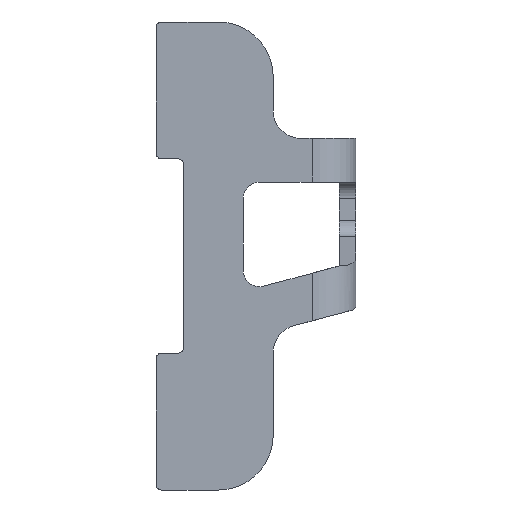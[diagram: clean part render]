
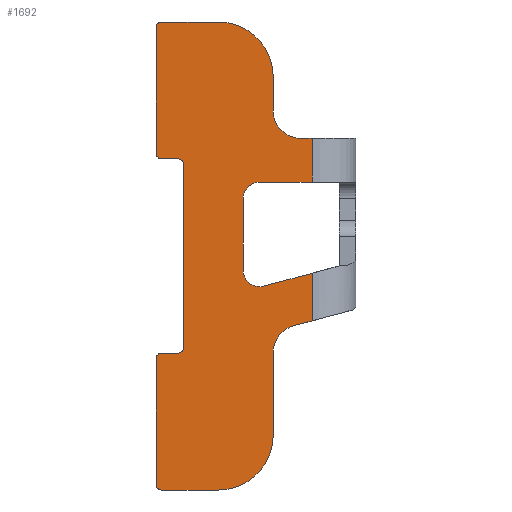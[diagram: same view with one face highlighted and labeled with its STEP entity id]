
A CAD part, left-side view. The second image highlights one B-rep face of the part: STEP entity #1692.
In plain terms, the highlighted planar face has unit normal (-1, 0, 0).
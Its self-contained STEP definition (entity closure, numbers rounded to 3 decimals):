
#114=CIRCLE('',#1829,1.);
#115=CIRCLE('',#1832,1.);
#116=CIRCLE('',#1835,1.);
#117=CIRCLE('',#1838,1.);
#118=CIRCLE('',#1841,1.);
#119=CIRCLE('',#1844,1.);
#120=CIRCLE('',#1847,10.);
#121=CIRCLE('',#1850,5.);
#125=CIRCLE('',#1857,5.);
#127=CIRCLE('',#1863,10.);
#132=CIRCLE('',#1874,3.);
#133=CIRCLE('',#1875,3.);
#498=ORIENTED_EDGE('',*,*,#879,.T.);
#499=ORIENTED_EDGE('',*,*,#880,.T.);
#500=ORIENTED_EDGE('',*,*,#881,.T.);
#501=ORIENTED_EDGE('',*,*,#882,.T.);
#502=ORIENTED_EDGE('',*,*,#883,.T.);
#503=ORIENTED_EDGE('',*,*,#788,.F.);
#504=ORIENTED_EDGE('',*,*,#854,.F.);
#505=ORIENTED_EDGE('',*,*,#860,.T.);
#506=ORIENTED_EDGE('',*,*,#865,.F.);
#507=ORIENTED_EDGE('',*,*,#869,.F.);
#508=ORIENTED_EDGE('',*,*,#871,.F.);
#509=ORIENTED_EDGE('',*,*,#823,.F.);
#510=ORIENTED_EDGE('',*,*,#826,.F.);
#511=ORIENTED_EDGE('',*,*,#828,.F.);
#512=ORIENTED_EDGE('',*,*,#830,.F.);
#513=ORIENTED_EDGE('',*,*,#831,.T.);
#514=ORIENTED_EDGE('',*,*,#834,.F.);
#515=ORIENTED_EDGE('',*,*,#835,.T.);
#516=ORIENTED_EDGE('',*,*,#838,.F.);
#517=ORIENTED_EDGE('',*,*,#840,.F.);
#518=ORIENTED_EDGE('',*,*,#842,.F.);
#519=ORIENTED_EDGE('',*,*,#844,.F.);
#520=ORIENTED_EDGE('',*,*,#846,.F.);
#521=ORIENTED_EDGE('',*,*,#848,.F.);
#522=ORIENTED_EDGE('',*,*,#850,.F.);
#523=ORIENTED_EDGE('',*,*,#851,.T.);
#524=ORIENTED_EDGE('',*,*,#663,.F.);
#525=ORIENTED_EDGE('',*,*,#780,.F.);
#663=EDGE_CURVE('',#917,#918,#1085,.T.);
#780=EDGE_CURVE('',#1025,#917,#1154,.T.);
#788=EDGE_CURVE('',#1029,#1028,#1156,.T.);
#823=EDGE_CURVE('',#1047,#1048,#114,.T.);
#826=EDGE_CURVE('',#1049,#1047,#1183,.T.);
#828=EDGE_CURVE('',#1050,#1049,#115,.T.);
#830=EDGE_CURVE('',#1051,#1050,#1186,.T.);
#831=EDGE_CURVE('',#1051,#1052,#116,.T.);
#834=EDGE_CURVE('',#1053,#1052,#1189,.T.);
#835=EDGE_CURVE('',#1053,#1054,#117,.T.);
#838=EDGE_CURVE('',#1055,#1054,#1192,.T.);
#840=EDGE_CURVE('',#1056,#1055,#118,.T.);
#842=EDGE_CURVE('',#1057,#1056,#1195,.T.);
#844=EDGE_CURVE('',#1058,#1057,#119,.T.);
#846=EDGE_CURVE('',#1059,#1058,#1198,.T.);
#848=EDGE_CURVE('',#1060,#1059,#120,.T.);
#850=EDGE_CURVE('',#1061,#1060,#1201,.T.);
#851=EDGE_CURVE('',#1061,#918,#121,.T.);
#854=EDGE_CURVE('',#1062,#1029,#1203,.T.);
#860=EDGE_CURVE('',#1062,#1065,#125,.T.);
#865=EDGE_CURVE('',#1067,#1065,#1211,.T.);
#869=EDGE_CURVE('',#1069,#1067,#127,.T.);
#871=EDGE_CURVE('',#1048,#1069,#1215,.T.);
#879=EDGE_CURVE('',#1025,#1074,#1219,.T.);
#880=EDGE_CURVE('',#1074,#1075,#132,.T.);
#881=EDGE_CURVE('',#1075,#1076,#1220,.T.);
#882=EDGE_CURVE('',#1076,#1077,#133,.T.);
#883=EDGE_CURVE('',#1077,#1028,#1221,.T.);
#917=VERTEX_POINT('',#2436);
#918=VERTEX_POINT('',#2438);
#1025=VERTEX_POINT('',#2668);
#1028=VERTEX_POINT('',#2680);
#1029=VERTEX_POINT('',#2682);
#1047=VERTEX_POINT('',#2752);
#1048=VERTEX_POINT('',#2754);
#1049=VERTEX_POINT('',#2758);
#1050=VERTEX_POINT('',#2762);
#1051=VERTEX_POINT('',#2766);
#1052=VERTEX_POINT('',#2770);
#1053=VERTEX_POINT('',#2774);
#1054=VERTEX_POINT('',#2778);
#1055=VERTEX_POINT('',#2782);
#1056=VERTEX_POINT('',#2786);
#1057=VERTEX_POINT('',#2790);
#1058=VERTEX_POINT('',#2794);
#1059=VERTEX_POINT('',#2798);
#1060=VERTEX_POINT('',#2802);
#1061=VERTEX_POINT('',#2806);
#1062=VERTEX_POINT('',#2813);
#1065=VERTEX_POINT('',#2825);
#1067=VERTEX_POINT('',#2833);
#1069=VERTEX_POINT('',#2841);
#1074=VERTEX_POINT('',#2863);
#1075=VERTEX_POINT('',#2865);
#1076=VERTEX_POINT('',#2867);
#1077=VERTEX_POINT('',#2869);
#1085=LINE('',#2437,#1253);
#1154=LINE('',#2669,#1322);
#1156=LINE('',#2683,#1324);
#1183=LINE('',#2759,#1351);
#1186=LINE('',#2767,#1354);
#1189=LINE('',#2775,#1357);
#1192=LINE('',#2783,#1360);
#1195=LINE('',#2791,#1363);
#1198=LINE('',#2799,#1366);
#1201=LINE('',#2807,#1369);
#1203=LINE('',#2814,#1371);
#1211=LINE('',#2834,#1379);
#1215=LINE('',#2846,#1383);
#1219=LINE('',#2862,#1387);
#1220=LINE('',#2866,#1388);
#1221=LINE('',#2870,#1389);
#1253=VECTOR('',#1922,1000.);
#1322=VECTOR('',#2101,1000.);
#1324=VECTOR('',#2119,1000.);
#1351=VECTOR('',#2204,1000.);
#1354=VECTOR('',#2213,1000.);
#1357=VECTOR('',#2222,1000.);
#1360=VECTOR('',#2231,1000.);
#1363=VECTOR('',#2240,1000.);
#1366=VECTOR('',#2249,1000.);
#1369=VECTOR('',#2258,1000.);
#1371=VECTOR('',#2268,1000.);
#1379=VECTOR('',#2290,1000.);
#1383=VECTOR('',#2306,1000.);
#1387=VECTOR('',#2326,1000.);
#1388=VECTOR('',#2329,1000.);
#1389=VECTOR('',#2332,1000.);
#1472=EDGE_LOOP('',(#498,#499,#500,#501,#502,#503,#504,#505,#506,#507,#508,
#509,#510,#511,#512,#513,#514,#515,#516,#517,#518,#519,#520,#521,#522,#523,
#524,#525));
#1562=FACE_BOUND('',#1472,.T.);
#1620=PLANE('',#1873);
#1692=ADVANCED_FACE('',(#1562),#1620,.F.);
#1829=AXIS2_PLACEMENT_3D('',#2753,#2198,#2199);
#1832=AXIS2_PLACEMENT_3D('',#2763,#2208,#2209);
#1835=AXIS2_PLACEMENT_3D('',#2769,#2216,#2217);
#1838=AXIS2_PLACEMENT_3D('',#2777,#2225,#2226);
#1841=AXIS2_PLACEMENT_3D('',#2787,#2235,#2236);
#1844=AXIS2_PLACEMENT_3D('',#2795,#2244,#2245);
#1847=AXIS2_PLACEMENT_3D('',#2803,#2253,#2254);
#1850=AXIS2_PLACEMENT_3D('',#2809,#2261,#2262);
#1857=AXIS2_PLACEMENT_3D('',#2824,#2280,#2281);
#1863=AXIS2_PLACEMENT_3D('',#2842,#2299,#2300);
#1873=AXIS2_PLACEMENT_3D('',#2861,#2324,#2325);
#1874=AXIS2_PLACEMENT_3D('',#2864,#2327,#2328);
#1875=AXIS2_PLACEMENT_3D('',#2868,#2330,#2331);
#1922=DIRECTION('',(0.,0.966,-0.259));
#2101=DIRECTION('',(0.,0.,-1.));
#2119=DIRECTION('',(0.,0.,-1.));
#2198=DIRECTION('',(1.,0.,0.));
#2199=DIRECTION('',(0.,1.,0.));
#2204=DIRECTION('',(0.,0.,1.));
#2208=DIRECTION('',(1.,0.,0.));
#2209=DIRECTION('',(0.,1.,0.));
#2213=DIRECTION('',(0.,1.,0.));
#2216=DIRECTION('',(1.,0.,0.));
#2217=DIRECTION('',(0.,1.,0.));
#2222=DIRECTION('',(0.,0.,1.));
#2225=DIRECTION('',(1.,0.,0.));
#2226=DIRECTION('',(0.,1.,0.));
#2231=DIRECTION('',(0.,-1.,0.));
#2235=DIRECTION('',(1.,0.,0.));
#2236=DIRECTION('',(0.,1.,0.));
#2240=DIRECTION('',(0.,0.,1.));
#2244=DIRECTION('',(1.,0.,0.));
#2245=DIRECTION('',(0.,1.,0.));
#2249=DIRECTION('',(0.,1.,0.));
#2253=DIRECTION('',(1.,0.,0.));
#2254=DIRECTION('',(0.,1.,0.));
#2258=DIRECTION('',(0.,0.,-1.));
#2261=DIRECTION('',(1.,0.,0.));
#2262=DIRECTION('',(0.,1.,0.));
#2268=DIRECTION('',(0.,-1.,0.));
#2280=DIRECTION('',(1.,0.,0.));
#2281=DIRECTION('',(0.,1.,0.));
#2290=DIRECTION('',(0.,0.,-1.));
#2299=DIRECTION('',(1.,0.,0.));
#2300=DIRECTION('',(0.,1.,0.));
#2306=DIRECTION('',(0.,-1.,0.));
#2324=DIRECTION('',(1.,0.,0.));
#2325=DIRECTION('',(0.,1.,0.));
#2326=DIRECTION('',(0.,0.966,-0.259));
#2327=DIRECTION('',(1.,0.,0.));
#2328=DIRECTION('',(0.,1.,0.));
#2329=DIRECTION('',(0.,0.,1.));
#2330=DIRECTION('',(1.,0.,0.));
#2331=DIRECTION('',(0.,1.,0.));
#2332=DIRECTION('',(0.,-1.,0.));
#2436=CARTESIAN_POINT('',(-61.5,8.,-33.344));
#2437=CARTESIAN_POINT('',(-61.5,0.,-31.2));
#2438=CARTESIAN_POINT('',(-61.5,11.394,-34.253));
#2668=CARTESIAN_POINT('',(-61.5,8.,-24.647));
#2669=CARTESIAN_POINT('',(-61.5,8.,30.));
#2680=CARTESIAN_POINT('',(-61.5,8.,-8.));
#2682=CARTESIAN_POINT('',(-61.5,8.,0.));
#2683=CARTESIAN_POINT('',(-61.5,8.,30.));
#2752=CARTESIAN_POINT('',(-61.5,36.5,20.25));
#2753=CARTESIAN_POINT('',(-61.5,35.5,20.25));
#2754=CARTESIAN_POINT('',(-61.5,35.5,21.25));
#2758=CARTESIAN_POINT('',(-61.5,36.5,-2.75));
#2759=CARTESIAN_POINT('',(-61.5,36.5,-2.75));
#2762=CARTESIAN_POINT('',(-61.5,35.5,-3.75));
#2763=CARTESIAN_POINT('',(-61.5,35.5,-2.75));
#2766=CARTESIAN_POINT('',(-61.5,32.5,-3.75));
#2767=CARTESIAN_POINT('',(-61.5,32.5,-3.75));
#2769=CARTESIAN_POINT('',(-61.5,32.5,-4.75));
#2770=CARTESIAN_POINT('',(-61.5,31.5,-4.75));
#2774=CARTESIAN_POINT('',(-61.5,31.5,-38.25));
#2775=CARTESIAN_POINT('',(-61.5,31.5,-38.25));
#2777=CARTESIAN_POINT('',(-61.5,32.5,-38.25));
#2778=CARTESIAN_POINT('',(-61.5,32.5,-39.25));
#2782=CARTESIAN_POINT('',(-61.5,35.5,-39.25));
#2783=CARTESIAN_POINT('',(-61.5,35.5,-39.25));
#2786=CARTESIAN_POINT('',(-61.5,36.5,-40.25));
#2787=CARTESIAN_POINT('',(-61.5,35.5,-40.25));
#2790=CARTESIAN_POINT('',(-61.5,36.5,-63.25));
#2791=CARTESIAN_POINT('',(-61.5,36.5,-63.25));
#2794=CARTESIAN_POINT('',(-61.5,35.5,-64.25));
#2795=CARTESIAN_POINT('',(-61.5,35.5,-63.25));
#2798=CARTESIAN_POINT('',(-61.5,25.1,-64.25));
#2799=CARTESIAN_POINT('',(-61.5,25.1,-64.25));
#2802=CARTESIAN_POINT('',(-61.5,15.1,-54.25));
#2803=CARTESIAN_POINT('',(-61.5,25.1,-54.25));
#2806=CARTESIAN_POINT('',(-61.5,15.1,-39.083));
#2807=CARTESIAN_POINT('',(-61.5,15.1,-39.083));
#2809=CARTESIAN_POINT('',(-61.5,10.1,-39.083));
#2813=CARTESIAN_POINT('',(-61.5,10.1,0.));
#2814=CARTESIAN_POINT('',(-61.5,10.1,0.));
#2824=CARTESIAN_POINT('',(-61.5,10.1,5.));
#2825=CARTESIAN_POINT('',(-61.5,15.1,5.));
#2833=CARTESIAN_POINT('',(-61.5,15.1,11.25));
#2834=CARTESIAN_POINT('',(-61.5,15.1,11.25));
#2841=CARTESIAN_POINT('',(-61.5,25.1,21.25));
#2842=CARTESIAN_POINT('',(-61.5,25.1,11.25));
#2846=CARTESIAN_POINT('',(-61.5,35.5,21.25));
#2861=CARTESIAN_POINT('',(-61.5,43.,30.));
#2862=CARTESIAN_POINT('',(-61.5,3.,-23.307));
#2863=CARTESIAN_POINT('',(-61.5,16.814,-27.008));
#2864=CARTESIAN_POINT('',(-61.5,17.59,-24.11));
#2865=CARTESIAN_POINT('',(-61.5,20.59,-24.11));
#2866=CARTESIAN_POINT('',(-61.5,20.59,-24.11));
#2867=CARTESIAN_POINT('',(-61.5,20.59,-11.));
#2868=CARTESIAN_POINT('',(-61.5,17.59,-11.));
#2869=CARTESIAN_POINT('',(-61.5,17.59,-8.));
#2870=CARTESIAN_POINT('',(-61.5,17.59,-8.));
